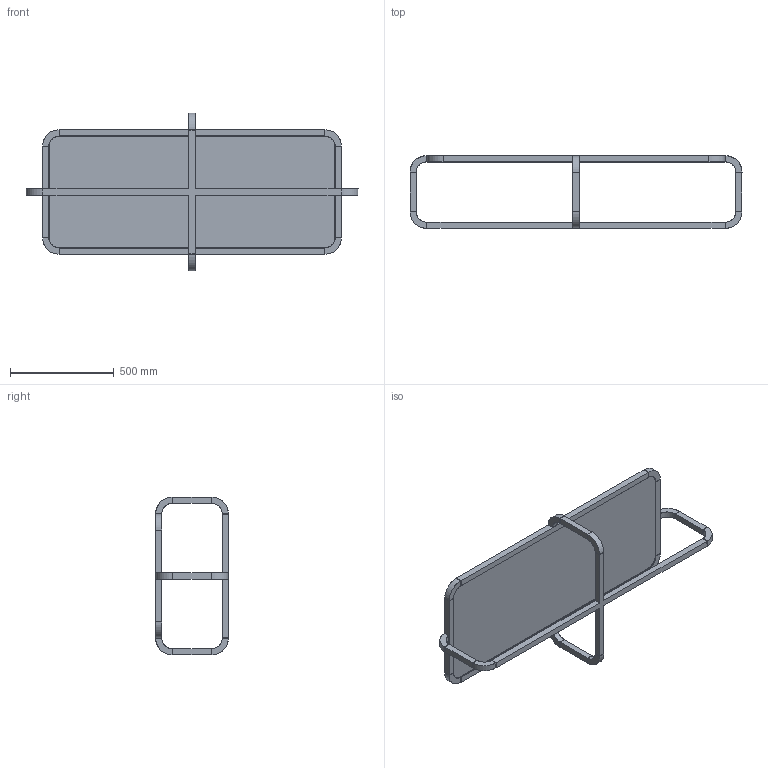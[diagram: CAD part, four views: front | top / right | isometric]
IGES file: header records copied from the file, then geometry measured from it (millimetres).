
Start section: SolidWorks IGES file using analytic representation for surfaces
Global section: file name: C:\Users\Utilizador\Desktop\Sales Files\176\176G Alpha Low Table _3D IGS.IGS; native system: SolidWorks 2016; preprocessor: SolidWorks 2016; author: Utilizador; date: 221104.155644; units: millimetre
Bounding box: 1600 x 350 x 760 mm (x, y, z)
Surface area: 2398719.7 mm2 (no closed solid volume)
Topology: 0 solids, 0 shells, 250 faces, 2176 edges, 2176 vertices
Faces by surface type: bspline 214, revolution 36
